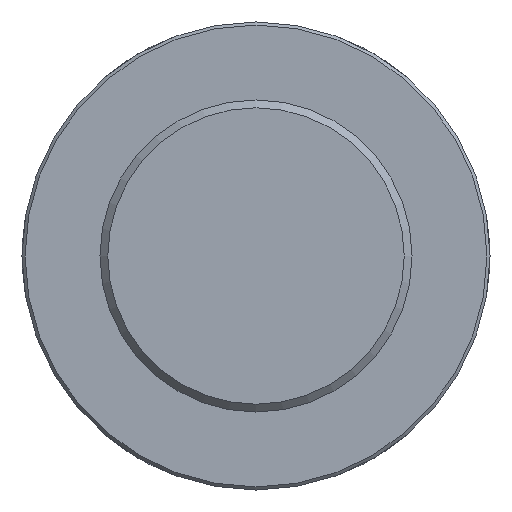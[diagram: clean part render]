
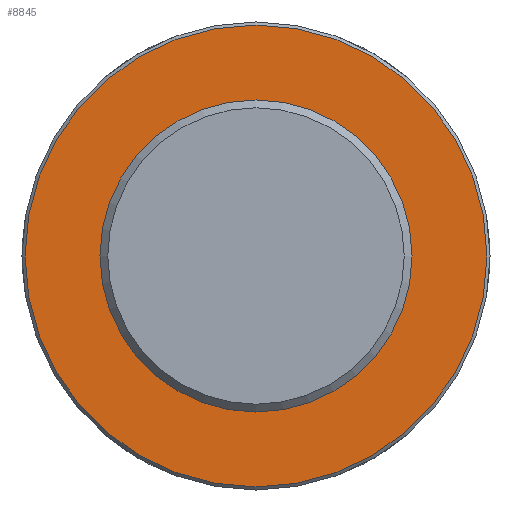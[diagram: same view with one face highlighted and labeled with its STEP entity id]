
A CAD part, front view. The second image highlights one B-rep face of the part: STEP entity #8845.
In plain terms, the highlighted planar face has unit normal (0, -1, 0) as drawn and (0, 1, 0) by its records, which use the part's own axes.
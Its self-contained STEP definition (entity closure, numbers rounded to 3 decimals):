
#73=CIRCLE('',#9169,148.);
#1386=FACE_OUTER_BOUND('',#1937,.T.);
#1937=EDGE_LOOP('',(#8119));
#4293=VERTEX_POINT('',#16337);
#5573=EDGE_CURVE('',#4293,#4293,#73,.T.);
#8119=ORIENTED_EDGE('',*,*,#5573,.F.);
#8368=PLANE('',#9172);
#8845=ADVANCED_FACE('',(#1386),#8368,.T.);
#9169=AXIS2_PLACEMENT_3D('',#16338,#10423,#10424);
#9172=AXIS2_PLACEMENT_3D('',#16576,#10429,#10430);
#10423=DIRECTION('center_axis',(0.,-1.,0.));
#10424=DIRECTION('ref_axis',(1.,0.,0.));
#10429=DIRECTION('center_axis',(0.,1.,0.));
#10430=DIRECTION('ref_axis',(0.,0.,1.));
#16337=CARTESIAN_POINT('',(-148.,140.,0.));
#16338=CARTESIAN_POINT('Origin',(0.,140.,0.));
#16576=CARTESIAN_POINT('Origin',(0.,140.,0.));
